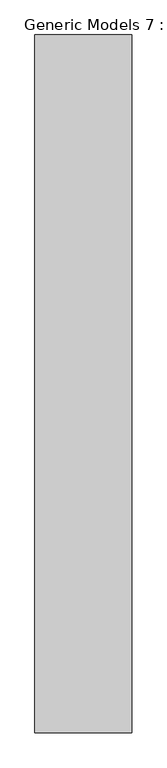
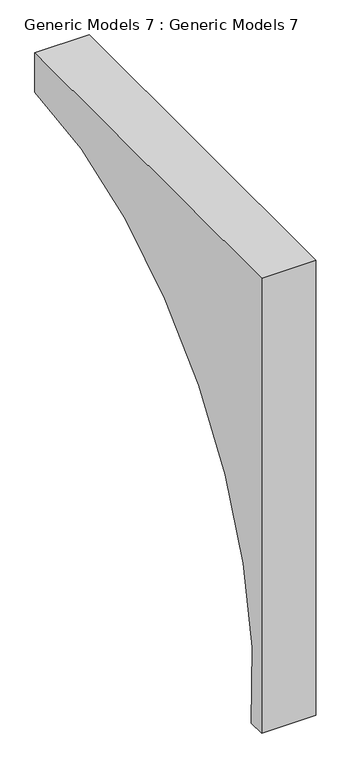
"""IFC4 building model written with IfcOpenShell, lengths in millimetres: proxy geometry, Generic Models 7 : Generic Models 7."""

from ifc_helpers import new_model, si_unit, frame, origin, place, context, project, spatial, polyline, circle_curve, source, transform, mapped, element, save
from ifc_brep_helpers import plane_surface, cylinder_surface, revolved_surface, advanced_brep


def generic_models_7_generic_models_7_4984e2a2(model_context):
    return source(origin(), model_context, "Body", "AdvancedBrep", [
        advanced_brep(
        [(41081.8405612, 28793.7215248, 0.0), (41081.8405612, 28932.5208076, 0.0), (41081.8405612, 31893.7215248, 3473.6102537), (41081.8405612, 31893.7215248, 3800.0), (41081.8405612, 28793.7215248, 3800.0), (41081.8405612, 28993.7215248, 2074.03644), (41081.8405612, 28993.7215248, 3390.0), (41081.8405612, 30713.2558931, 3390.0), (40652.3355956, 31893.7215248, 3473.6102537), (40652.3355956, 28932.5208076, 0.0), (40652.3355956, 28793.7215248, 0.0), (40652.3355956, 28793.7215248, 3800.0), (40652.3355956, 31893.7215248, 3800.0), (40914.1830624, 28993.7215248, 2074.03644), (40914.1830624, 30713.2558931, 3390.0), (40914.1830624, 28993.7215248, 3390.0)],
        [
            (0, 1),
            (1, 2, circle_curve(frame((41081.8405612, 32022.7687804, 364.6046433), z_axis=(-1.0, 0.0, 0.0), x_axis=(0.0, -1.0, 0.0)), 3111.6826766)),
            (2, 3),
            (3, 4),
            (4, 0),
            (5, 6),
            (6, 7),
            (7, 5, circle_curve(frame((41081.8405612, 31755.5682977, 246.6217215), z_axis=(1.0, 0.0, 0.0), x_axis=(0.0, -1.0, 0.0)), 3311.6826766)),
            (8, 9, circle_curve(frame((40652.3355956, 32022.7687804, 364.6046433), z_axis=(1.0, 0.0, 0.0), x_axis=(0.0, -1.0, 0.0)), 3111.6826766)),
            (9, 10),
            (10, 11),
            (11, 12),
            (12, 8),
            (13, 14, circle_curve(frame((40914.1830624, 31755.5682977, 246.6217215), z_axis=(-1.0, 0.0, 0.0), x_axis=(0.0, -1.0, 0.0)), 3311.6826766)),
            (14, 15),
            (15, 13),
            (10, 0),
            (4, 11),
            (9, 1),
            (8, 2),
            (12, 3),
            (15, 6),
            (5, 13),
            (14, 7),
        ],
        [
            plane_surface(frame((41081.8405612, 28793.7215248, 0.0), z_axis=(1.0, 0.0, 0.0), x_axis=(0.0, 0.0, -1.0))),
            plane_surface(frame((40652.3355956, 28793.7215248, 0.0), z_axis=(-1.0, 0.0, 0.0), x_axis=(0.0, 0.0, 1.0))),
            plane_surface(frame((40914.1830624, 28993.7215248, 0.0), z_axis=(1.0, 0.0, 0.0), x_axis=(0.0, 0.0, 1.0))),
            plane_surface(frame((41081.8405612, 28793.7215248, 4290.0), z_axis=(0.0, -1.0, 0.0), x_axis=(-1.0, 0.0, 0.0))),
            plane_surface(frame((41081.8405612, 28793.7215248, 0.0), z_axis=(0.0, 0.0, -1.0), x_axis=(-1.0, 0.0, 0.0))),
            revolved_surface(polyline([(40652.3355956, 28911.0861038, 364.6046433), (41081.8405612, 28911.0861038, 364.6046433)]), (40652.3355956, 32022.7687804, 364.6046433), (-1.0, 0.0, 0.0)),
            plane_surface(frame((41081.8405612, 31893.7215248, 3473.6102537), z_axis=(0.0, 1.0, 0.0), x_axis=(-1.0, 0.0, 0.0))),
            plane_surface(frame((40914.1830624, 28993.7215248, 2074.03644), z_axis=(0.0, 1.0, 0.0), x_axis=(1.0, 0.0, 0.0))),
            plane_surface(frame((40914.1830624, 28993.7215248, 3390.0), z_axis=(0.0, 0.0, -1.0), x_axis=(1.0, 0.0, 0.0))),
            cylinder_surface(frame((41081.8405612, 31755.5682977, 246.6217215), z_axis=(1.0, 0.0, 0.0), x_axis=(0.0, -1.0, 0.0)), 3311.6826766),
            plane_surface(frame((39814.2474833, 32965.4924877, 3800.0), z_axis=(0.0, 0.0, 1.0), x_axis=(1.0, 0.0, 0.0))),
        ],
        [
            (0, [[1, 2, 3, 4, 5], [6, 7, 8]]),
            (1, [[9, 10, 11, 12, 13]]),
            (2, [[14, 15, 16]]),
            (3, [[17, -5, 18, -11]]),
            (4, [[-1, -17, -10, 19]]),
            (5, [[-2, -19, -9, 20]]),
            (6, [[-20, -13, 21, -3]]),
            (7, [[-16, 22, -6, 23]]),
            (8, [[-15, 24, -7, -22]]),
            (9, [[-14, -23, -8, -24]]),
            (10, [[-4, -21, -12, -18]]),
        ],
    ),
    ])


if __name__ == "__main__":
    model = new_model("IFC4")
    model_context = context("Model", 3, world=origin())
    ifc_project = project(units=[si_unit("LENGTHUNIT", "METRE", prefix="MILLI")], contexts=[model_context])
    site = spatial("IfcSite", under=ifc_project)
    building = spatial("IfcBuilding", under=site)
    placement = place(None, origin())
    generic_models_7_generic_models_7_shape = generic_models_7_generic_models_7_4984e2a2(model_context)
    element("IfcBuildingElementProxy", 1, Name="Generic Models 7 : Generic Models 7", ObjectType="Generic Models 7 : Generic Models 7", at=placement, inside=building, context=model_context, shape_type="MappedRepresentation", body=[
        mapped(generic_models_7_generic_models_7_shape, transform((0.0, 0.0, 0.0), x_axis=(1.0, 0.0, 0.0), y_axis=(0.0, 1.0, 0.0), z_axis=(0.0, 0.0, 1.0))),
    ])
    save(model, "model.ifc")
